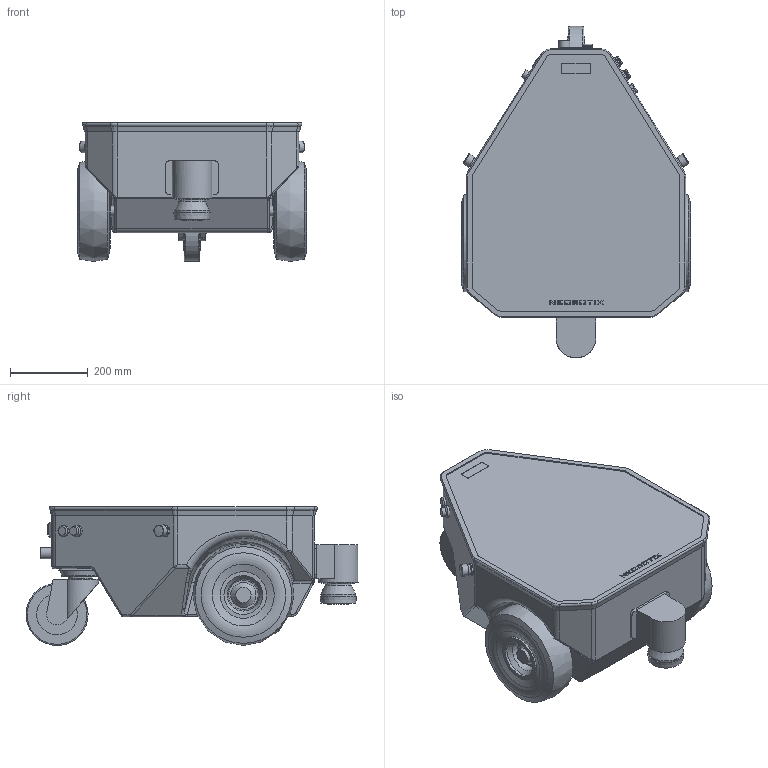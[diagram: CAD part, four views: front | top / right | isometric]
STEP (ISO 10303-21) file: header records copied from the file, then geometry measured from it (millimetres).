
FILE_DESCRIPTION(/* description */ (''),/* implementation_level */ '2;1');
FILE_NAME(/* name */ 'X:\CAD Projekte\Mobile Plattformen\MP-500\ROS Simulationsmodel\MP-500 V2.4.1 Simplified Complete.stp',/* time_stamp */ '2020-10-15T15:08:15+02:00',/* author */ ('flv'),/* organization */ (''),/* preprocessor_version */ 'ST-DEVELOPER v16.5',/* originating_system */ 'Autodesk Inventor 2017',/* authorisation */ '');
FILE_SCHEMA (('AUTOMOTIVE_DESIGN { 1 0 10303 214 3 1 1 }'));
Length unit declared in the file: millimetre
Products named in the file (1): MP-500 V2.4.1 Simplified
Bounding box: 591.99 x 855.39 x 357.9 mm (x, y, z)
Volume: 81358938.7 mm3; surface area: 1678462.1 mm2
Topology: 1 solids, 1 shells, 533 faces, 1267 edges, 776 vertices
Faces by surface type: plane 230, cylinder 152, bspline 60, cone 46, torus 35, sphere 10
Full cylindrical faces by diameter (mm): 21.5 x3, 24.036 x1, 25 x2, 25.9 x2, 27 x1, 27.5 x3, 29 x1, 29.5 x5, 30.3 x2, 31 x2, 40 x4, 62 x1, 67.4 x1, 90 x1, 100 x4, 101.8 x1, 120 x4
Entity records: 16258 total; most frequent: CARTESIAN_POINT 3963, DIRECTION 2476, ORIENTED_EDGE 2320, EDGE_CURVE 1160, AXIS2_PLACEMENT_3D 916, VERTEX_POINT 772, EDGE_LOOP 676, LINE 644
